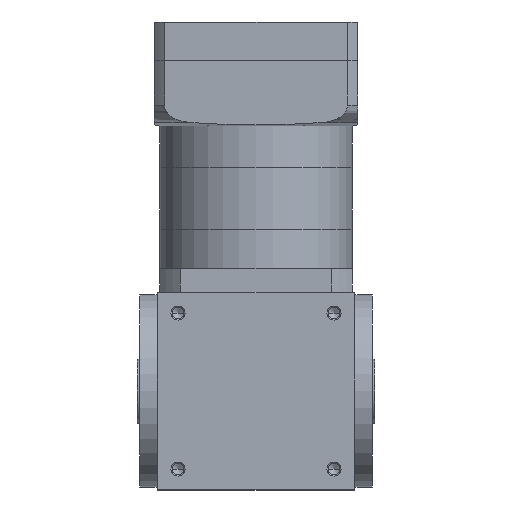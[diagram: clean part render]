
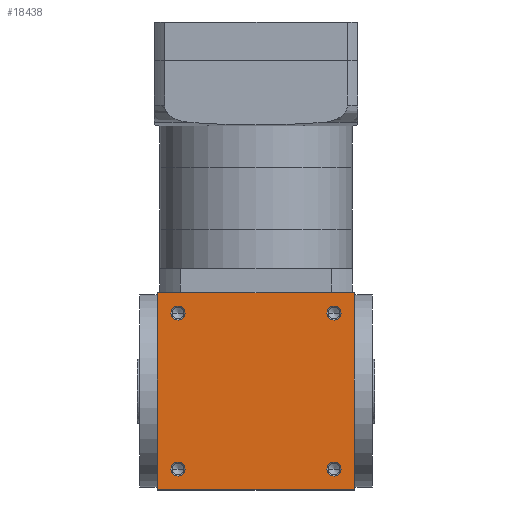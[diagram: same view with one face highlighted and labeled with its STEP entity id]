
A CAD part, front view. The second image highlights one B-rep face of the part: STEP entity #18438.
In plain terms, the highlighted planar face has unit normal (0, -1, 0).
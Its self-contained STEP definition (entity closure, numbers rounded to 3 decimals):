
#118 = DIRECTION ( 'NONE',  ( 0., 0., -1. ) ) ;
#1674 = CIRCLE ( 'NONE', #41500, 6.025 ) ;
#1797 = CARTESIAN_POINT ( 'NONE',  ( -84.5, -85., 169.5 ) ) ;
#2249 = AXIS2_PLACEMENT_3D ( 'NONE', #18240, #47344, #22428 ) ;
#4190 = ORIENTED_EDGE ( 'NONE', *, *, #25929, .F. ) ;
#4237 = VERTEX_POINT ( 'NONE', #7546 ) ;
#4449 = VERTEX_POINT ( 'NONE', #44856 ) ;
#4464 = CARTESIAN_POINT ( 'NONE',  ( 84.5, -85., 170. ) ) ;
#5158 = CIRCLE ( 'NONE', #48113, 6.025 ) ;
#5524 = DIRECTION ( 'NONE',  ( 0., -1., 0. ) ) ;
#7229 = VERTEX_POINT ( 'NONE', #48433 ) ;
#7346 = ORIENTED_EDGE ( 'NONE', *, *, #26163, .F. ) ;
#7546 = CARTESIAN_POINT ( 'NONE',  ( -67., -85., 145.975 ) ) ;
#7890 = EDGE_CURVE ( 'NONE', #4449, #20990, #33343, .T. ) ;
#11654 = CARTESIAN_POINT ( 'NONE',  ( -67., -85., 11.975 ) ) ;
#12129 = CARTESIAN_POINT ( 'NONE',  ( -67., -85., 152. ) ) ;
#12602 = FACE_OUTER_BOUND ( 'NONE', #45173, .T. ) ;
#12724 = FACE_BOUND ( 'NONE', #41952, .T. ) ;
#12875 = CARTESIAN_POINT ( 'NONE',  ( -85., -85., 170. ) ) ;
#12908 = DIRECTION ( 'NONE',  ( 0., -1., 0. ) ) ;
#13008 = FACE_BOUND ( 'NONE', #44754, .T. ) ;
#13077 = CARTESIAN_POINT ( 'NONE',  ( -67., -85., 24.025 ) ) ;
#13555 = FACE_BOUND ( 'NONE', #49933, .T. ) ;
#13890 = FACE_BOUND ( 'NONE', #16273, .T. ) ;
#14019 = EDGE_CURVE ( 'NONE', #14616, #4237, #47617, .T. ) ;
#14361 = PLANE ( 'NONE',  #44679 ) ;
#14364 = DIRECTION ( 'NONE',  ( 0., -1., 0. ) ) ;
#14405 = CARTESIAN_POINT ( 'NONE',  ( 67., -85., 152. ) ) ;
#14616 = VERTEX_POINT ( 'NONE', #20715 ) ;
#15262 = VERTEX_POINT ( 'NONE', #37813 ) ;
#16273 = EDGE_LOOP ( 'NONE', ( #23098, #49328 ) ) ;
#16442 = DIRECTION ( 'NONE',  ( 0., 0., -1. ) ) ;
#18112 = CARTESIAN_POINT ( 'NONE',  ( -67., -85., 152. ) ) ;
#18151 = AXIS2_PLACEMENT_3D ( 'NONE', #39196, #14364, #43487 ) ;
#18240 = CARTESIAN_POINT ( 'NONE',  ( -67., -85., 18. ) ) ;
#18438 = ADVANCED_FACE ( 'NONE', ( #13890, #13008, #13555, #12724, #12602 ), #14361, .F. ) ;
#18572 = DIRECTION ( 'NONE',  ( 0., 0., -1. ) ) ;
#18819 = ORIENTED_EDGE ( 'NONE', *, *, #26095, .F. ) ;
#19562 = DIRECTION ( 'NONE',  ( 0., -1., 0. ) ) ;
#19977 = CARTESIAN_POINT ( 'NONE',  ( 67., -85., 18. ) ) ;
#20143 = DIRECTION ( 'NONE',  ( 0., 0., -1. ) ) ;
#20715 = CARTESIAN_POINT ( 'NONE',  ( -67., -85., 158.025 ) ) ;
#20990 = VERTEX_POINT ( 'NONE', #35593 ) ;
#20996 = CARTESIAN_POINT ( 'NONE',  ( -85., -85., 169.5 ) ) ;
#21349 = DIRECTION ( 'NONE',  ( -1., 0., 0. ) ) ;
#22428 = DIRECTION ( 'NONE',  ( 0., 0., -1. ) ) ;
#22521 = CIRCLE ( 'NONE', #18151, 6.025 ) ;
#23098 = ORIENTED_EDGE ( 'NONE', *, *, #35237, .F. ) ;
#23839 = ORIENTED_EDGE ( 'NONE', *, *, #25997, .F. ) ;
#23966 = CIRCLE ( 'NONE', #2249, 6.025 ) ;
#25044 = DIRECTION ( 'NONE',  ( 0., -1., 0. ) ) ;
#25624 = EDGE_CURVE ( 'NONE', #32748, #33627, #22521, .T. ) ;
#25929 = EDGE_CURVE ( 'NONE', #41740, #7229, #30974, .T. ) ;
#25997 = EDGE_CURVE ( 'NONE', #7229, #53193, #32936, .T. ) ;
#26005 = EDGE_CURVE ( 'NONE', #53193, #15262, #33035, .T. ) ;
#26095 = EDGE_CURVE ( 'NONE', #20990, #4449, #34826, .T. ) ;
#26163 = EDGE_CURVE ( 'NONE', #15262, #41740, #38829, .T. ) ;
#27298 = ORIENTED_EDGE ( 'NONE', *, *, #26005, .F. ) ;
#28075 = ORIENTED_EDGE ( 'NONE', *, *, #35487, .F. ) ;
#28120 = CARTESIAN_POINT ( 'NONE',  ( 67., -85., 145.975 ) ) ;
#29612 = DIRECTION ( 'NONE',  ( 0., 0., -1. ) ) ;
#30549 = VECTOR ( 'NONE', #29612, 1000. ) ;
#30663 = CARTESIAN_POINT ( 'NONE',  ( 67., -85., 18. ) ) ;
#30723 = AXIS2_PLACEMENT_3D ( 'NONE', #19977, #12908, #20143 ) ;
#30974 = LINE ( 'NONE', #20996, #32450 ) ;
#32314 = VERTEX_POINT ( 'NONE', #28120 ) ;
#32450 = VECTOR ( 'NONE', #33491, 1000. ) ;
#32452 = EDGE_CURVE ( 'NONE', #37841, #32314, #44374, .T. ) ;
#32748 = VERTEX_POINT ( 'NONE', #11654 ) ;
#32936 = LINE ( 'NONE', #4464, #30549 ) ;
#33035 = LINE ( 'NONE', #37824, #33638 ) ;
#33343 = CIRCLE ( 'NONE', #30723, 6.025 ) ;
#33491 = DIRECTION ( 'NONE',  ( 1., 0., 0. ) ) ;
#33627 = VERTEX_POINT ( 'NONE', #13077 ) ;
#33638 = VECTOR ( 'NONE', #21349, 1000. ) ;
#34735 = DIRECTION ( 'NONE',  ( 0., 0., -1. ) ) ;
#34826 = CIRCLE ( 'NONE', #50534, 6.025 ) ;
#35092 = CARTESIAN_POINT ( 'NONE',  ( -84.5, -85., 170. ) ) ;
#35237 = EDGE_CURVE ( 'NONE', #4237, #14616, #5158, .T. ) ;
#35487 = EDGE_CURVE ( 'NONE', #32314, #37841, #1674, .T. ) ;
#35593 = CARTESIAN_POINT ( 'NONE',  ( 67., -85., 11.975 ) ) ;
#35970 = ORIENTED_EDGE ( 'NONE', *, *, #32452, .F. ) ;
#37590 = DIRECTION ( 'NONE',  ( 0., 0., 1. ) ) ;
#37813 = CARTESIAN_POINT ( 'NONE',  ( -84.5, -85., 0.5 ) ) ;
#37824 = CARTESIAN_POINT ( 'NONE',  ( -85., -85., 0.5 ) ) ;
#37841 = VERTEX_POINT ( 'NONE', #42944 ) ;
#38722 = VECTOR ( 'NONE', #47581, 1000. ) ;
#38829 = LINE ( 'NONE', #35092, #38722 ) ;
#38878 = AXIS2_PLACEMENT_3D ( 'NONE', #49832, #25044, #118 ) ;
#39082 = DIRECTION ( 'NONE',  ( 0., 1., 0. ) ) ;
#39196 = CARTESIAN_POINT ( 'NONE',  ( -67., -85., 18. ) ) ;
#39220 = ORIENTED_EDGE ( 'NONE', *, *, #25624, .F. ) ;
#41333 = DIRECTION ( 'NONE',  ( 0., -1., 0. ) ) ;
#41500 = AXIS2_PLACEMENT_3D ( 'NONE', #14405, #43539, #18572 ) ;
#41740 = VERTEX_POINT ( 'NONE', #1797 ) ;
#41952 = EDGE_LOOP ( 'NONE', ( #39220, #42261 ) ) ;
#42261 = ORIENTED_EDGE ( 'NONE', *, *, #43397, .F. ) ;
#42944 = CARTESIAN_POINT ( 'NONE',  ( 67., -85., 158.025 ) ) ;
#43397 = EDGE_CURVE ( 'NONE', #33627, #32748, #23966, .T. ) ;
#43487 = DIRECTION ( 'NONE',  ( 0., 0., -1. ) ) ;
#43539 = DIRECTION ( 'NONE',  ( 0., -1., 0. ) ) ;
#44374 = CIRCLE ( 'NONE', #38878, 6.025 ) ;
#44679 = AXIS2_PLACEMENT_3D ( 'NONE', #12875, #39082, #37590 ) ;
#44754 = EDGE_LOOP ( 'NONE', ( #28075, #35970 ) ) ;
#44856 = CARTESIAN_POINT ( 'NONE',  ( 67., -85., 24.025 ) ) ;
#45173 = EDGE_LOOP ( 'NONE', ( #27298, #23839, #4190, #7346 ) ) ;
#45626 = ORIENTED_EDGE ( 'NONE', *, *, #7890, .F. ) ;
#46256 = AXIS2_PLACEMENT_3D ( 'NONE', #18112, #19562, #51539 ) ;
#47344 = DIRECTION ( 'NONE',  ( 0., -1., 0. ) ) ;
#47581 = DIRECTION ( 'NONE',  ( 0., 0., 1. ) ) ;
#47617 = CIRCLE ( 'NONE', #46256, 6.025 ) ;
#48113 = AXIS2_PLACEMENT_3D ( 'NONE', #12129, #41333, #16442 ) ;
#48433 = CARTESIAN_POINT ( 'NONE',  ( 84.5, -85., 169.5 ) ) ;
#49328 = ORIENTED_EDGE ( 'NONE', *, *, #14019, .F. ) ;
#49832 = CARTESIAN_POINT ( 'NONE',  ( 67., -85., 152. ) ) ;
#49933 = EDGE_LOOP ( 'NONE', ( #18819, #45626 ) ) ;
#50534 = AXIS2_PLACEMENT_3D ( 'NONE', #30663, #5524, #34735 ) ;
#51539 = DIRECTION ( 'NONE',  ( 0., 0., -1. ) ) ;
#51682 = CARTESIAN_POINT ( 'NONE',  ( 84.5, -85., 0.5 ) ) ;
#53193 = VERTEX_POINT ( 'NONE', #51682 ) ;
